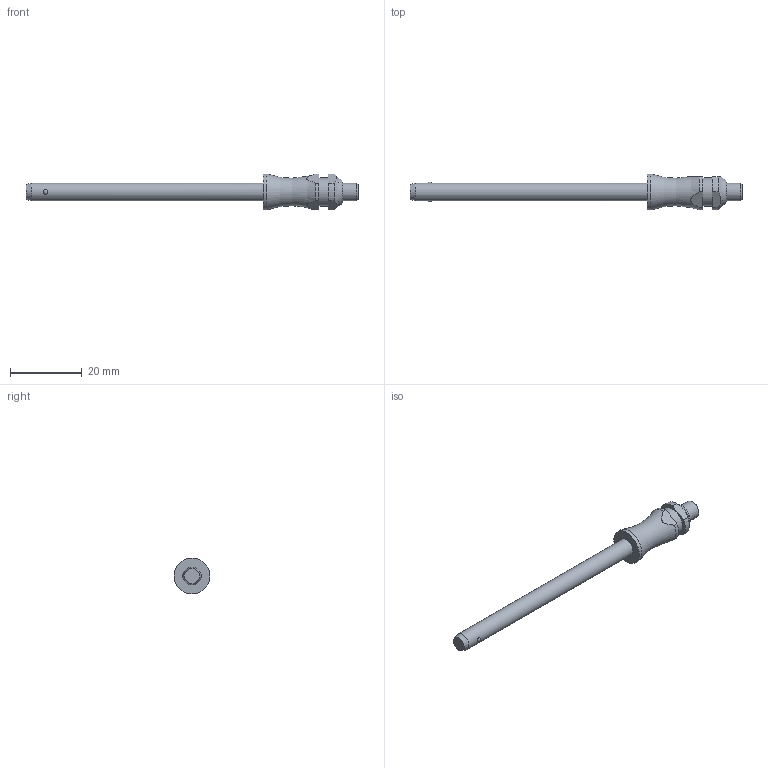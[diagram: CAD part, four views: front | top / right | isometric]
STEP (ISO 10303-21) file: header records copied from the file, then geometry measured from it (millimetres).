
FILE_DESCRIPTION( ( 'STEP AP203' ), '1' );
FILE_NAME( 'C:/Temp/Ganter_Step_05_03_2020/data/3_1/gn113_3/Stainless Steel-Ball lock pin GN 113.3-5-60 (deactivated).stp', '2020-03-12T08:18:13', ( 'License CC BY-ND 4.0' ), ( 'CADENAS' ), ' ', 'PARTsolutions', ' ' );
FILE_SCHEMA( ( 'CONFIG_CONTROL_DESIGN' ) );
Length unit declared in the file: millimetre
Products named in the file (1): _Stainless Steel-Ball lock pin GN 113.3-5-60 (deactivated)
Bounding box: 92.3 x 10 x 10 mm (x, y, z)
Volume: 2632.4 mm3; surface area: 1856.2 mm2
Topology: 1 solids, 1 shells, 29 faces, 61 edges, 40 vertices
Faces by surface type: plane 12, cylinder 10, cone 3, torus 2, sphere 2
Full cylindrical faces by diameter (mm): 5 x2, 7.9 x1, 10 x1
Entity records: 902 total; most frequent: CARTESIAN_POINT 272, DIRECTION 126, ORIENTED_EDGE 100, AXIS2_PLACEMENT_3D 54, EDGE_CURVE 50, EDGE_LOOP 44, VERTEX_POINT 38, FACE_OUTER_BOUND 35
